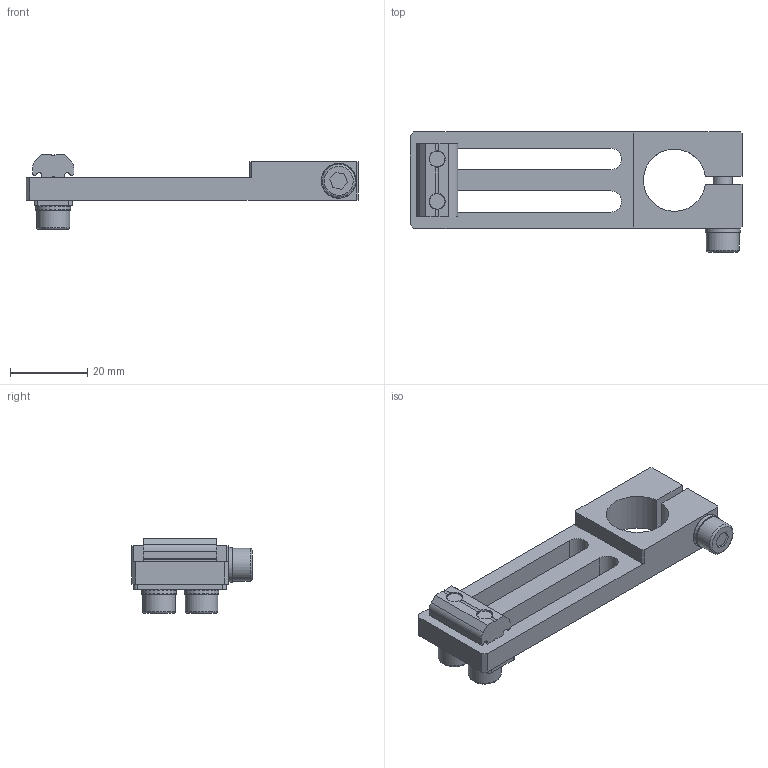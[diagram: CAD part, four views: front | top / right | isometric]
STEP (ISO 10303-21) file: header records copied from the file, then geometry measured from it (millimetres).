
FILE_DESCRIPTION(('STEP AP214'),'1');
FILE_NAME('CA.04.02.16.X.stp','2018-11-13T07:58:00',(' '),(' '),'Spatial InterOp 3D',' ',' ');
FILE_SCHEMA(('AUTOMOTIVE_DESIGN { 1 0 10303 214 1 1 1 1 }'));
Length unit declared in the file: millimetre
Products named in the file (9): CA.04.02.16.X; V.TCE5x14; R.5.SCH; R.05.11; CA.GWP.5.11; GWP.5.11; CA.04.02.16; 04.02.16; V.TCE5x25
Assembly tree (11 placements, depth 3):
  CA.04.02.16.X
    V.TCE5x14  x2
    R.5.SCH  x2
    R.05.11
    CA.GWP.5.11
      GWP.5.11
    CA.04.02.16
      04.02.16
      R.5.SCH
      V.TCE5x25
Bounding box: 86 x 31.1 x 19.4 mm (x, y, z)
Volume: 12593.4 mm3; surface area: 10441.3 mm2
Topology: 6 solids, 9 shells, 694 faces, 2027 edges, 1344 vertices
Faces by surface type: plane 646, cylinder 39, torus 6, cone 3
Full cylindrical faces by diameter (mm): 4.2 x3, 5 x3, 5.3 x5, 5.5 x1, 8.5 x3, 9 x3
Entity records: 12070 total; most frequent: CARTESIAN_POINT 1736, DIRECTION 1669, ORIENTED_EDGE 1622, EDGE_CURVE 811, AXIS2_PLACEMENT_3D 561, VERTEX_POINT 548, LINE 547, VECTOR 547
